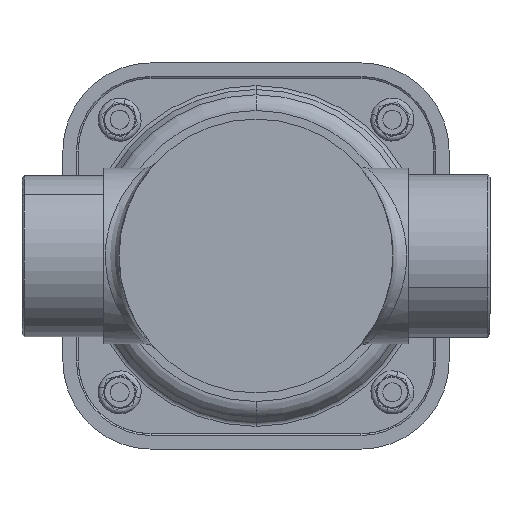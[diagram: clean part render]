
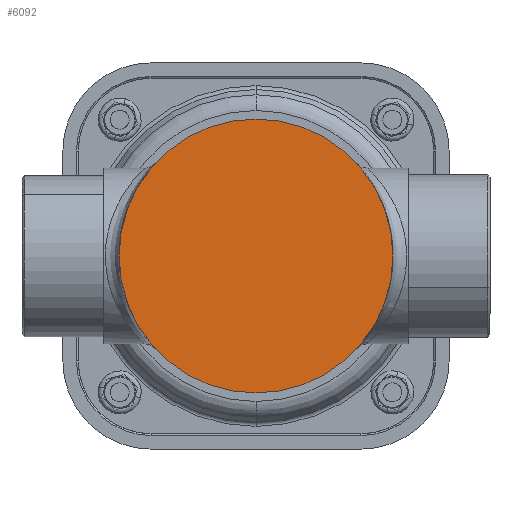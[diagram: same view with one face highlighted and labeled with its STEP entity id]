
A CAD part, front view. The second image highlights one B-rep face of the part: STEP entity #6092.
In plain terms, the highlighted planar face has unit normal (0, -1, 0).
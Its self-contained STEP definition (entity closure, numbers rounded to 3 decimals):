
#243 = CIRCLE ( 'NONE', #5194, 30.15 ) ;
#906 = DIRECTION ( 'NONE',  ( 0., 1., 0. ) ) ;
#1543 = VERTEX_POINT ( 'NONE', #12690 ) ;
#1779 = ORIENTED_EDGE ( 'NONE', *, *, #2578, .F. ) ;
#2094 = DIRECTION ( 'NONE',  ( 0., 0., 1. ) ) ;
#2578 = EDGE_CURVE ( 'NONE', #12705, #1543, #243, .T. ) ;
#2720 = DIRECTION ( 'NONE',  ( 0., 1., 0. ) ) ;
#3393 = FACE_OUTER_BOUND ( 'NONE', #6451, .T. ) ;
#3802 = CARTESIAN_POINT ( 'NONE',  ( 0., 0., 0. ) ) ;
#4248 = DIRECTION ( 'NONE',  ( 0., 0., 1. ) ) ;
#4614 = CIRCLE ( 'NONE', #8604, 30.15 ) ;
#5194 = AXIS2_PLACEMENT_3D ( 'NONE', #13863, #906, #4248 ) ;
#6092 = ADVANCED_FACE ( 'NONE', ( #3393 ), #6346, .F. ) ;
#6346 = PLANE ( 'NONE',  #11226 ) ;
#6365 = ORIENTED_EDGE ( 'NONE', *, *, #11363, .F. ) ;
#6451 = EDGE_LOOP ( 'NONE', ( #1779, #6365 ) ) ;
#8418 = DIRECTION ( 'NONE',  ( 0., 1., 0. ) ) ;
#8604 = AXIS2_PLACEMENT_3D ( 'NONE', #3802, #2720, #10241 ) ;
#9892 = CARTESIAN_POINT ( 'NONE',  ( 0., 0., -30.15 ) ) ;
#10241 = DIRECTION ( 'NONE',  ( 0., 0., 1. ) ) ;
#11226 = AXIS2_PLACEMENT_3D ( 'NONE', #12913, #8418, #2094 ) ;
#11363 = EDGE_CURVE ( 'NONE', #1543, #12705, #4614, .T. ) ;
#12690 = CARTESIAN_POINT ( 'NONE',  ( 0., 0., 30.15 ) ) ;
#12705 = VERTEX_POINT ( 'NONE', #9892 ) ;
#12913 = CARTESIAN_POINT ( 'NONE',  ( 0., 0., 0. ) ) ;
#13863 = CARTESIAN_POINT ( 'NONE',  ( 0., 0., 0. ) ) ;
